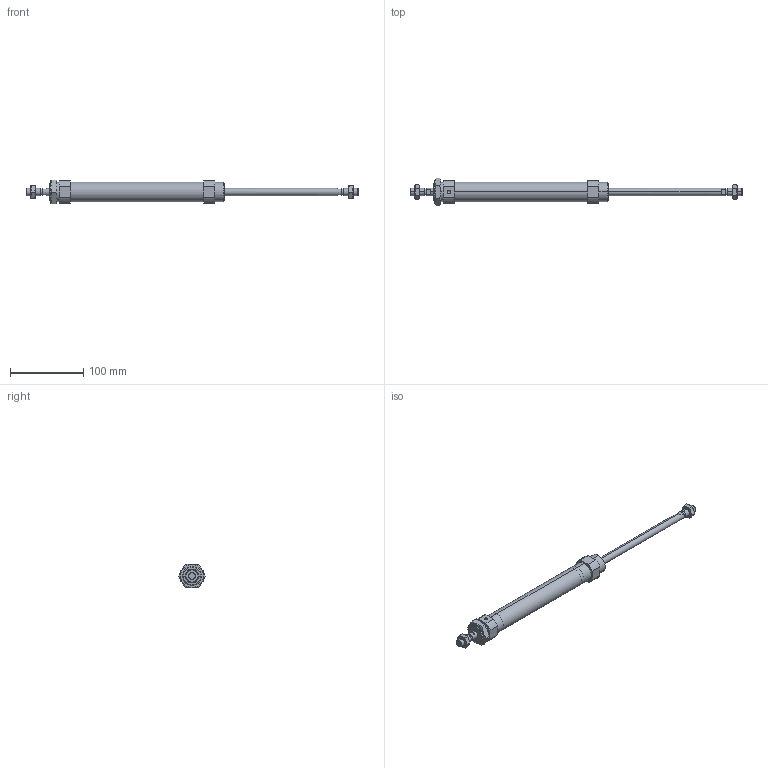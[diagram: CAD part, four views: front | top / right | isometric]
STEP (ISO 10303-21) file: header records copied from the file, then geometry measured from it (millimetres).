
FILE_DESCRIPTION (( 'STEP AP203' ), '1' );
FILE_NAME ('CSM2B25-150-P.STEP', '2020-07-20T16:44:02', ( '' ), ( '' ), 'SwSTEP 2.0', 'SolidWorks 2019', '' );
FILE_SCHEMA (( 'CONFIG_CONTROL_DESIGN' ));
Length unit declared in the file: millimetre
Products named in the file (1): CSM2B25-150-P
Bounding box: 452 x 36.95 x 32 mm (x, y, z)
Volume: 98309.6 mm3; surface area: 57673.8 mm2
Topology: 5 solids, 5 shells, 152 faces, 356 edges, 223 vertices
Faces by surface type: plane 62, cylinder 46, cone 44
Entity records: 5355 total; most frequent: CARTESIAN_POINT 1796, DIRECTION 738, ORIENTED_EDGE 708, EDGE_CURVE 354, AXIS2_PLACEMENT_3D 291, VERTEX_POINT 223, EDGE_LOOP 175, VECTOR 156
